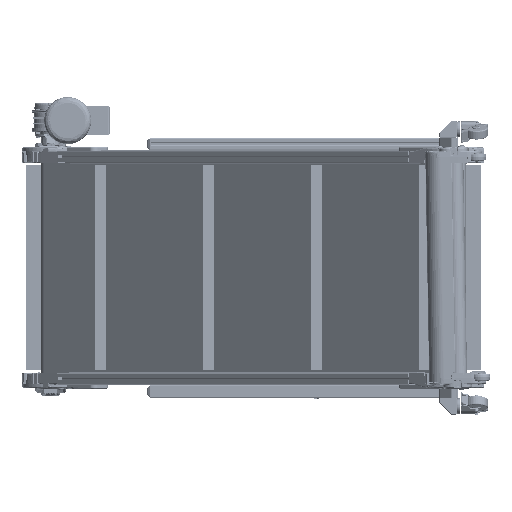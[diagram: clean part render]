
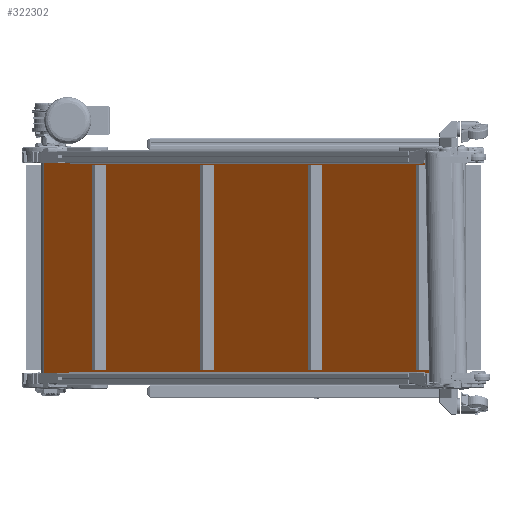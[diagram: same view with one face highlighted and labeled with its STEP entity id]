
A CAD part, left-side view. The second image highlights one B-rep face of the part: STEP entity #322302.
In plain terms, the highlighted planar face has unit normal (-0.707, 0.707, 0).
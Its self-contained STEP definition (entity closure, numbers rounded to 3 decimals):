
#8066 = VECTOR ( 'NONE', #408343, 1000. ) ;
#10015 = EDGE_CURVE ( 'NONE', #186428, #25754, #525075, .T. ) ;
#13589 = EDGE_LOOP ( 'NONE', ( #443608, #479360, #149400, #282224 ) ) ;
#14637 = CARTESIAN_POINT ( 'NONE',  ( 344.139, 33.151, -296.5 ) ) ;
#25754 = VERTEX_POINT ( 'NONE', #479984 ) ;
#33853 = CARTESIAN_POINT ( 'NONE',  ( 344.139, 33.151, 296.5 ) ) ;
#39535 = VECTOR ( 'NONE', #78340, 1000. ) ;
#53876 = CARTESIAN_POINT ( 'NONE',  ( 344.139, 33.151, -296.5 ) ) ;
#55284 = EDGE_CURVE ( 'NONE', #25754, #164224, #369720, .T. ) ;
#67218 = DIRECTION ( 'NONE',  ( -0.707, -0.707, 0. ) ) ;
#75485 = DIRECTION ( 'NONE',  ( 0.707, 0.707, 0. ) ) ;
#78340 = DIRECTION ( 'NONE',  ( 0., 0., -1. ) ) ;
#114846 = VECTOR ( 'NONE', #67218, 1000. ) ;
#149400 = ORIENTED_EDGE ( 'NONE', *, *, #10015, .F. ) ;
#164224 = VERTEX_POINT ( 'NONE', #53876 ) ;
#171958 = EDGE_CURVE ( 'NONE', #304053, #164224, #236549, .T. ) ;
#186428 = VERTEX_POINT ( 'NONE', #233410 ) ;
#211196 = AXIS2_PLACEMENT_3D ( 'NONE', #33853, #455729, #75485 ) ;
#233410 = CARTESIAN_POINT ( 'NONE',  ( 1390.154, 1079.166, 296.5 ) ) ;
#236549 = LINE ( 'NONE', #14637, #114846 ) ;
#282224 = ORIENTED_EDGE ( 'NONE', *, *, #428642, .T. ) ;
#286461 = PLANE ( 'NONE',  #211196 ) ;
#304053 = VERTEX_POINT ( 'NONE', #535703 ) ;
#316981 = CARTESIAN_POINT ( 'NONE',  ( 1340.657, 1029.669, 296.5 ) ) ;
#322302 = ADVANCED_FACE ( 'NONE', ( #463935 ), #286461, .F. ) ;
#367056 = CARTESIAN_POINT ( 'NONE',  ( 1390.154, 1079.166, 296.5 ) ) ;
#369720 = LINE ( 'NONE', #455724, #518880 ) ;
#378018 = LINE ( 'NONE', #367056, #39535 ) ;
#408343 = DIRECTION ( 'NONE',  ( -0.707, -0.707, 0. ) ) ;
#428642 = EDGE_CURVE ( 'NONE', #186428, #304053, #378018, .T. ) ;
#443608 = ORIENTED_EDGE ( 'NONE', *, *, #171958, .T. ) ;
#455724 = CARTESIAN_POINT ( 'NONE',  ( 344.139, 33.151, 296.5 ) ) ;
#455729 = DIRECTION ( 'NONE',  ( 0.707, -0.707, 0. ) ) ;
#463935 = FACE_OUTER_BOUND ( 'NONE', #13589, .T. ) ;
#479360 = ORIENTED_EDGE ( 'NONE', *, *, #55284, .F. ) ;
#479984 = CARTESIAN_POINT ( 'NONE',  ( 344.139, 33.151, 296.5 ) ) ;
#505518 = DIRECTION ( 'NONE',  ( 0., 0., -1. ) ) ;
#518880 = VECTOR ( 'NONE', #505518, 1000. ) ;
#525075 = LINE ( 'NONE', #316981, #8066 ) ;
#535703 = CARTESIAN_POINT ( 'NONE',  ( 1390.154, 1079.166, -296.5 ) ) ;
